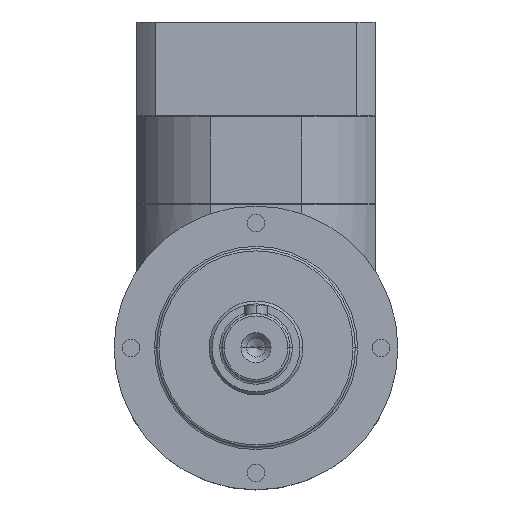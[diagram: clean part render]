
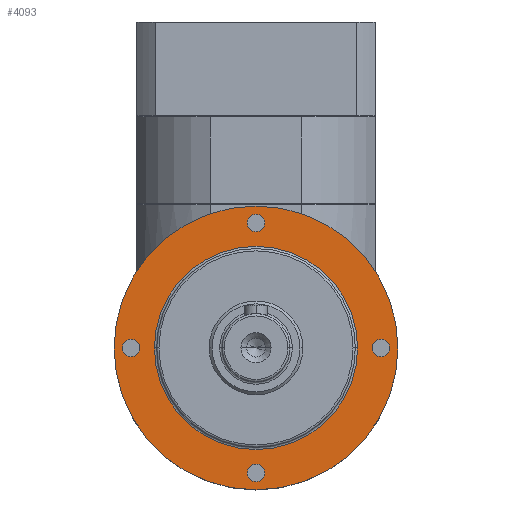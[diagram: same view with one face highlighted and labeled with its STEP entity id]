
A CAD part, top view. The second image highlights one B-rep face of the part: STEP entity #4093.
In plain terms, the highlighted planar face has unit normal (0, 0, 1).
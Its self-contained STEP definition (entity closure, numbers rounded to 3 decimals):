
#92 = DIRECTION ( 'NONE',  ( 0., 0., 1. ) ) ;
#184 = CARTESIAN_POINT ( 'NONE',  ( -1.55, 22., 15. ) ) ;
#202 = EDGE_CURVE ( 'NONE', #4379, #1744, #3804, .T. ) ;
#238 = CARTESIAN_POINT ( 'NONE',  ( -1.55, -22., 15. ) ) ;
#243 = EDGE_CURVE ( 'NONE', #391, #1873, #1396, .T. ) ;
#288 = ORIENTED_EDGE ( 'NONE', *, *, #3467, .F. ) ;
#371 = ORIENTED_EDGE ( 'NONE', *, *, #631, .T. ) ;
#391 = VERTEX_POINT ( 'NONE', #2039 ) ;
#408 = CIRCLE ( 'NONE', #2877, 1.55 ) ;
#440 = DIRECTION ( 'NONE',  ( 1., 0., 0. ) ) ;
#450 = DIRECTION ( 'NONE',  ( 0., 0., 1. ) ) ;
#477 = CIRCLE ( 'NONE', #2171, 25. ) ;
#482 = FACE_BOUND ( 'NONE', #2064, .T. ) ;
#492 = CARTESIAN_POINT ( 'NONE',  ( 0., 22., 15. ) ) ;
#521 = DIRECTION ( 'NONE',  ( 0., 0., 1. ) ) ;
#536 = DIRECTION ( 'NONE',  ( 0., 0., 1. ) ) ;
#558 = AXIS2_PLACEMENT_3D ( 'NONE', #2246, #890, #875 ) ;
#595 = AXIS2_PLACEMENT_3D ( 'NONE', #3376, #4056, #2362 ) ;
#631 = EDGE_CURVE ( 'NONE', #1744, #4379, #477, .T. ) ;
#656 = CARTESIAN_POINT ( 'NONE',  ( -20.45, 0., 15. ) ) ;
#739 = DIRECTION ( 'NONE',  ( 1., 0., 0. ) ) ;
#755 = EDGE_CURVE ( 'NONE', #1361, #3885, #1730, .T. ) ;
#799 = ORIENTED_EDGE ( 'NONE', *, *, #3589, .T. ) ;
#800 = FACE_OUTER_BOUND ( 'NONE', #4040, .T. ) ;
#826 = DIRECTION ( 'NONE',  ( 0., 0., 1. ) ) ;
#875 = DIRECTION ( 'NONE',  ( 1., 0., 0. ) ) ;
#890 = DIRECTION ( 'NONE',  ( 0., 0., 1. ) ) ;
#947 = FACE_BOUND ( 'NONE', #3019, .T. ) ;
#974 = VERTEX_POINT ( 'NONE', #1696 ) ;
#986 = CARTESIAN_POINT ( 'NONE',  ( 1.55, 22., 15. ) ) ;
#1058 = FACE_BOUND ( 'NONE', #1363, .T. ) ;
#1080 = DIRECTION ( 'NONE',  ( 1., 0., 0. ) ) ;
#1084 = AXIS2_PLACEMENT_3D ( 'NONE', #3975, #1935, #4314 ) ;
#1116 = EDGE_CURVE ( 'NONE', #1270, #3611, #2044, .T. ) ;
#1118 = CIRCLE ( 'NONE', #2816, 1.55 ) ;
#1165 = CIRCLE ( 'NONE', #3677, 17.9 ) ;
#1167 = CARTESIAN_POINT ( 'NONE',  ( 0., 0., 15. ) ) ;
#1251 = EDGE_CURVE ( 'NONE', #3885, #1361, #2143, .T. ) ;
#1270 = VERTEX_POINT ( 'NONE', #3214 ) ;
#1274 = CARTESIAN_POINT ( 'NONE',  ( 0., 0., 15. ) ) ;
#1316 = ORIENTED_EDGE ( 'NONE', *, *, #1251, .F. ) ;
#1361 = VERTEX_POINT ( 'NONE', #184 ) ;
#1363 = EDGE_LOOP ( 'NONE', ( #4390, #799 ) ) ;
#1396 = CIRCLE ( 'NONE', #558, 1.55 ) ;
#1403 = AXIS2_PLACEMENT_3D ( 'NONE', #3205, #4266, #1849 ) ;
#1542 = CARTESIAN_POINT ( 'NONE',  ( 0., -22., 15. ) ) ;
#1547 = CIRCLE ( 'NONE', #1403, 1.55 ) ;
#1552 = ORIENTED_EDGE ( 'NONE', *, *, #3046, .F. ) ;
#1587 = EDGE_LOOP ( 'NONE', ( #4303, #288 ) ) ;
#1696 = CARTESIAN_POINT ( 'NONE',  ( 1.55, -22., 15. ) ) ;
#1730 = CIRCLE ( 'NONE', #1900, 1.55 ) ;
#1744 = VERTEX_POINT ( 'NONE', #3844 ) ;
#1753 = DIRECTION ( 'NONE',  ( 0., 0., 1. ) ) ;
#1814 = EDGE_CURVE ( 'NONE', #974, #2120, #1547, .T. ) ;
#1849 = DIRECTION ( 'NONE',  ( 1., 0., 0. ) ) ;
#1873 = VERTEX_POINT ( 'NONE', #2851 ) ;
#1900 = AXIS2_PLACEMENT_3D ( 'NONE', #2523, #521, #3920 ) ;
#1935 = DIRECTION ( 'NONE',  ( 0., 0., 1. ) ) ;
#1966 = DIRECTION ( 'NONE',  ( 0., 0., -1. ) ) ;
#2039 = CARTESIAN_POINT ( 'NONE',  ( 23.55, 0., 15. ) ) ;
#2044 = CIRCLE ( 'NONE', #2375, 1.55 ) ;
#2064 = EDGE_LOOP ( 'NONE', ( #2600, #1552 ) ) ;
#2095 = CARTESIAN_POINT ( 'NONE',  ( -22., 0., 15. ) ) ;
#2115 = CARTESIAN_POINT ( 'NONE',  ( -17.9, 0., 15. ) ) ;
#2120 = VERTEX_POINT ( 'NONE', #238 ) ;
#2122 = EDGE_CURVE ( 'NONE', #3626, #2699, #3509, .T. ) ;
#2143 = CIRCLE ( 'NONE', #2825, 1.55 ) ;
#2171 = AXIS2_PLACEMENT_3D ( 'NONE', #4151, #92, #2780 ) ;
#2208 = DIRECTION ( 'NONE',  ( 1., 0., 0. ) ) ;
#2246 = CARTESIAN_POINT ( 'NONE',  ( 22., 0., 15. ) ) ;
#2292 = EDGE_LOOP ( 'NONE', ( #1316, #3932 ) ) ;
#2362 = DIRECTION ( 'NONE',  ( 1., 0., 0. ) ) ;
#2375 = AXIS2_PLACEMENT_3D ( 'NONE', #2095, #1753, #739 ) ;
#2386 = AXIS2_PLACEMENT_3D ( 'NONE', #1274, #1966, #4339 ) ;
#2443 = CARTESIAN_POINT ( 'NONE',  ( -22., 0., 15. ) ) ;
#2523 = CARTESIAN_POINT ( 'NONE',  ( 0., 22., 15. ) ) ;
#2600 = ORIENTED_EDGE ( 'NONE', *, *, #243, .F. ) ;
#2655 = DIRECTION ( 'NONE',  ( 0., 0., -1. ) ) ;
#2699 = VERTEX_POINT ( 'NONE', #2115 ) ;
#2740 = DIRECTION ( 'NONE',  ( 0., 0., 1. ) ) ;
#2780 = DIRECTION ( 'NONE',  ( 1., 0., 0. ) ) ;
#2816 = AXIS2_PLACEMENT_3D ( 'NONE', #1542, #536, #2208 ) ;
#2817 = CIRCLE ( 'NONE', #1084, 1.55 ) ;
#2825 = AXIS2_PLACEMENT_3D ( 'NONE', #492, #450, #440 ) ;
#2851 = CARTESIAN_POINT ( 'NONE',  ( 20.45, 0., 15. ) ) ;
#2877 = AXIS2_PLACEMENT_3D ( 'NONE', #2443, #2740, #1080 ) ;
#2898 = CARTESIAN_POINT ( 'NONE',  ( -25., 0., 15. ) ) ;
#3019 = EDGE_LOOP ( 'NONE', ( #4325, #3057 ) ) ;
#3044 = CARTESIAN_POINT ( 'NONE',  ( 17.9, 0., 15. ) ) ;
#3046 = EDGE_CURVE ( 'NONE', #1873, #391, #2817, .T. ) ;
#3057 = ORIENTED_EDGE ( 'NONE', *, *, #1116, .F. ) ;
#3205 = CARTESIAN_POINT ( 'NONE',  ( 0., -22., 15. ) ) ;
#3214 = CARTESIAN_POINT ( 'NONE',  ( -23.55, 0., 15. ) ) ;
#3219 = DIRECTION ( 'NONE',  ( 1., 0., 0. ) ) ;
#3376 = CARTESIAN_POINT ( 'NONE',  ( 0., 0., 15. ) ) ;
#3467 = EDGE_CURVE ( 'NONE', #2120, #974, #1118, .T. ) ;
#3509 = CIRCLE ( 'NONE', #2386, 17.9 ) ;
#3527 = FACE_BOUND ( 'NONE', #2292, .T. ) ;
#3589 = EDGE_CURVE ( 'NONE', #2699, #3626, #1165, .T. ) ;
#3611 = VERTEX_POINT ( 'NONE', #656 ) ;
#3626 = VERTEX_POINT ( 'NONE', #3044 ) ;
#3669 = FACE_BOUND ( 'NONE', #1587, .T. ) ;
#3677 = AXIS2_PLACEMENT_3D ( 'NONE', #4025, #2655, #4369 ) ;
#3686 = EDGE_CURVE ( 'NONE', #3611, #1270, #408, .T. ) ;
#3804 = CIRCLE ( 'NONE', #4058, 25. ) ;
#3808 = ORIENTED_EDGE ( 'NONE', *, *, #202, .T. ) ;
#3844 = CARTESIAN_POINT ( 'NONE',  ( 25., 0., 15. ) ) ;
#3885 = VERTEX_POINT ( 'NONE', #986 ) ;
#3920 = DIRECTION ( 'NONE',  ( 1., 0., 0. ) ) ;
#3932 = ORIENTED_EDGE ( 'NONE', *, *, #755, .F. ) ;
#3975 = CARTESIAN_POINT ( 'NONE',  ( 22., 0., 15. ) ) ;
#4025 = CARTESIAN_POINT ( 'NONE',  ( 0., 0., 15. ) ) ;
#4040 = EDGE_LOOP ( 'NONE', ( #3808, #371 ) ) ;
#4056 = DIRECTION ( 'NONE',  ( 0., 0., 1. ) ) ;
#4058 = AXIS2_PLACEMENT_3D ( 'NONE', #1167, #826, #3219 ) ;
#4093 = ADVANCED_FACE ( 'NONE', ( #1058, #482, #3669, #947, #3527, #800 ), #4376, .T. ) ;
#4151 = CARTESIAN_POINT ( 'NONE',  ( 0., 0., 15. ) ) ;
#4266 = DIRECTION ( 'NONE',  ( 0., 0., 1. ) ) ;
#4303 = ORIENTED_EDGE ( 'NONE', *, *, #1814, .F. ) ;
#4314 = DIRECTION ( 'NONE',  ( 1., 0., 0. ) ) ;
#4325 = ORIENTED_EDGE ( 'NONE', *, *, #3686, .F. ) ;
#4339 = DIRECTION ( 'NONE',  ( 1., 0., 0. ) ) ;
#4369 = DIRECTION ( 'NONE',  ( 1., 0., 0. ) ) ;
#4376 = PLANE ( 'NONE',  #595 ) ;
#4379 = VERTEX_POINT ( 'NONE', #2898 ) ;
#4390 = ORIENTED_EDGE ( 'NONE', *, *, #2122, .T. ) ;
